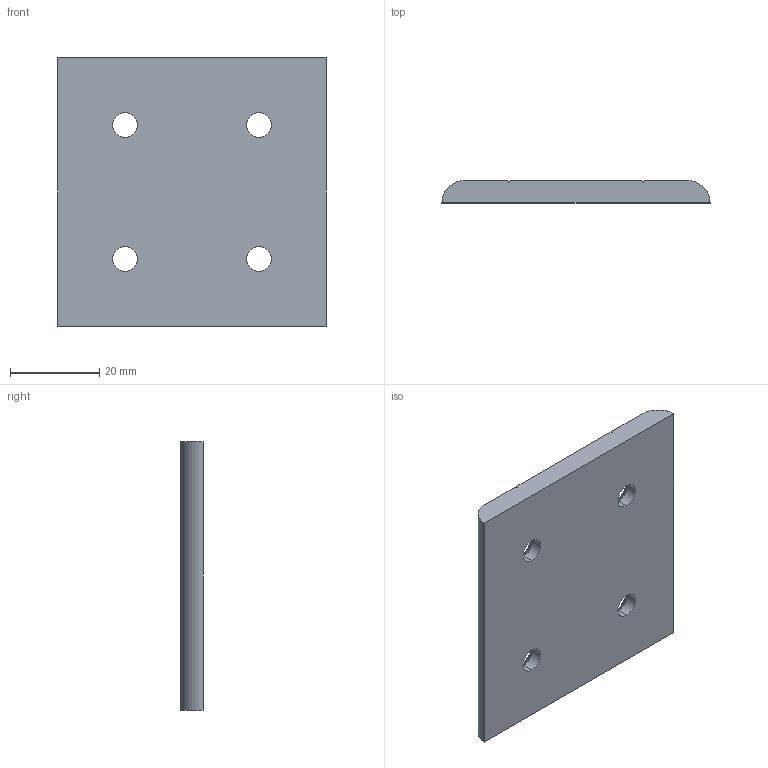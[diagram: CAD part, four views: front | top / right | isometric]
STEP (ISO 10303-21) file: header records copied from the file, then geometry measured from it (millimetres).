
FILE_DESCRIPTION (( 'STEP AP203' ), '1' );
FILE_NAME ('WFL6060P.STEP', '2024-02-19T01:15:27', ( '' ), ( '' ), 'SwSTEP 2.0', 'SolidWorks 2022', '' );
FILE_SCHEMA (( 'CONFIG_CONTROL_DESIGN' ));
Length unit declared in the file: millimetre
Products named in the file (1): WFL6060P
Bounding box: 60 x 5 x 60 mm (x, y, z)
Volume: 16600.5 mm3; surface area: 8254 mm2
Topology: 1 solids, 1 shells, 36 faces, 98 edges, 60 vertices
Faces by surface type: plane 18, cylinder 10, cone 8
Entity records: 1231 total; most frequent: CARTESIAN_POINT 243, ORIENTED_EDGE 196, DIRECTION 184, EDGE_CURVE 98, AXIS2_PLACEMENT_3D 65, VERTEX_POINT 60, LINE 54, VECTOR 54
